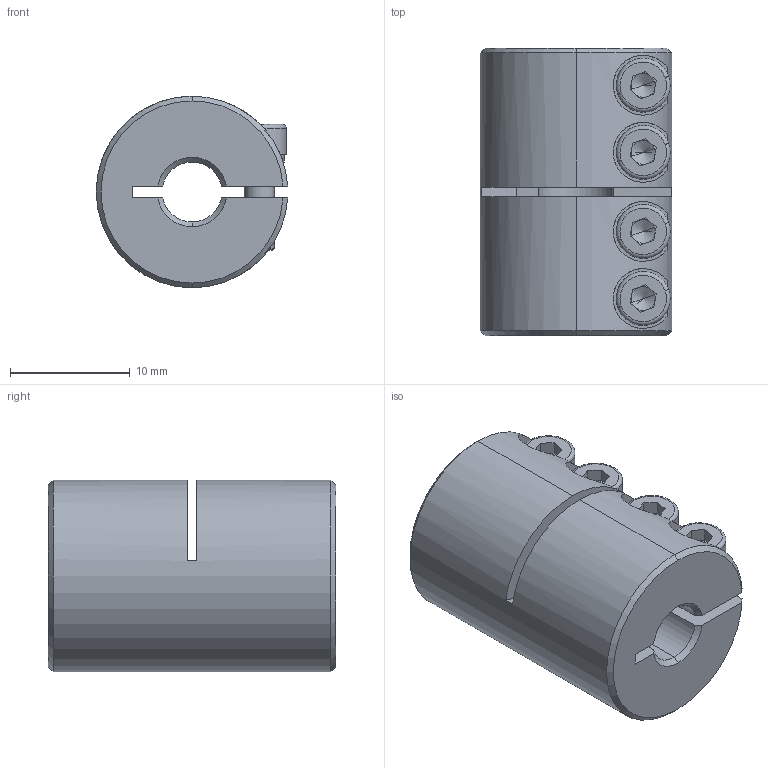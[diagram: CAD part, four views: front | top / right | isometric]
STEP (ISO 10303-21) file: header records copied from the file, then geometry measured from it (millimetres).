
FILE_DESCRIPTION (( 'STEP AP203' ), '1' );
FILE_NAME ('LL-B-D16L24-5-6.35.STEP', '2021-11-03T04:32:45', ( '' ), ( '' ), 'SwSTEP 2.0', 'SolidWorks 2018', '' );
FILE_SCHEMA (( 'CONFIG_CONTROL_DESIGN' ));
Length unit declared in the file: millimetre
Products named in the file (1): LL-B-D16L24-5-6.35
Bounding box: 15.98 x 24 x 16 mm (x, y, z)
Volume: 3886.3 mm3; surface area: 2930.8 mm2
Topology: 1 solids, 1 shells, 205 faces, 527 edges, 328 vertices
Faces by surface type: plane 92, cylinder 77, cone 28, torus 8
Entity records: 6642 total; most frequent: CARTESIAN_POINT 1521, DIRECTION 1103, ORIENTED_EDGE 1038, EDGE_CURVE 519, AXIS2_PLACEMENT_3D 430, VERTEX_POINT 328, VECTOR 243, LINE 243
